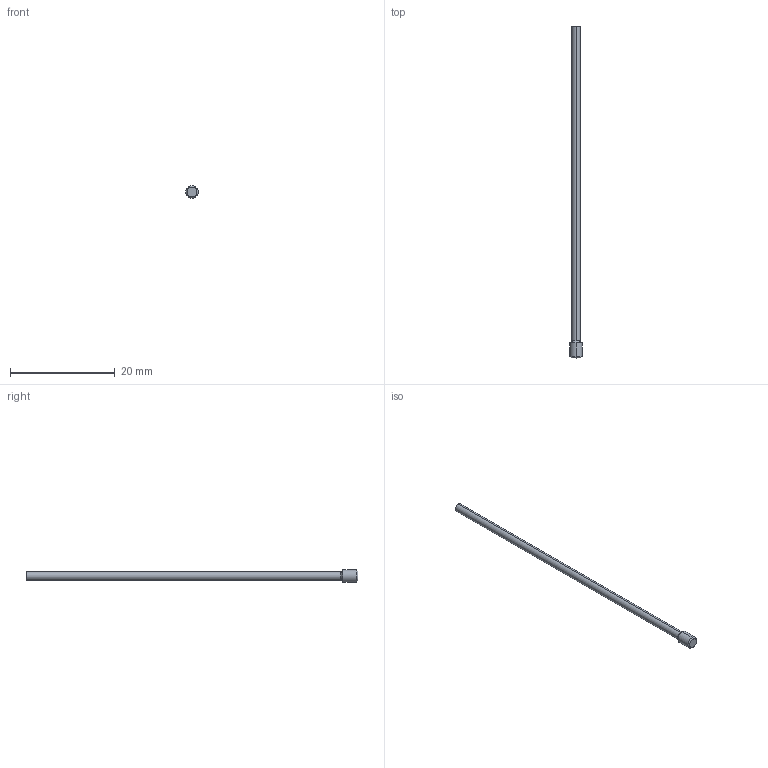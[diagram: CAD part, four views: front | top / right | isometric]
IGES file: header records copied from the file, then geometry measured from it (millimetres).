
Start section: SolidWorks IGES file using analytic representation for surfaces
Global section: file name: C:\Users\pcic_01KAK2013\OneDrive - Progressive Components\Desktop\Daily CAD\WEBSITE CAD\PRO SAVE EXPORT\TI0620L2.5.igs; native system: SolidWorks 2020; preprocessor: SolidWorks 2020; author: pcic_01KAK2013; date: 240226.162642; units: inch
Bounding box: 2.36 x 63.5 x 2.36 mm (x, y, z)
Volume: 131 mm3; surface area: 328 mm2
Topology: 1 solids, 1 shells, 12 faces, 22 edges, 12 vertices
Faces by surface type: revolution 10, plane 2
